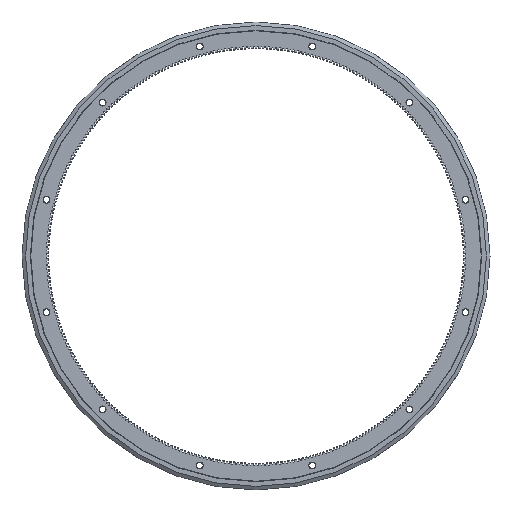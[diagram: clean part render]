
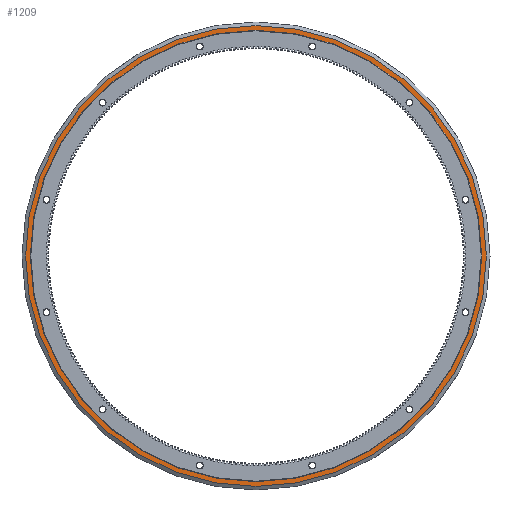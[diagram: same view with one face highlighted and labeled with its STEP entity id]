
A CAD part, front view. The second image highlights one B-rep face of the part: STEP entity #1209.
In plain terms, the highlighted planar face has unit normal (0, -1, 0).
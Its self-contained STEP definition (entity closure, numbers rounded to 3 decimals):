
#1209 = ADVANCED_FACE( '', ( #4254, #4255 ), #4256, .T. );
#4254 = FACE_OUTER_BOUND( '', #8053, .T. );
#4255 = FACE_BOUND( '', #8054, .T. );
#4256 = PLANE( '', #8055 );
#8053 = EDGE_LOOP( '', ( #18088 ) );
#8054 = EDGE_LOOP( '', ( #18089 ) );
#8055 = AXIS2_PLACEMENT_3D( '', #18090, #18091, #18092 );
#18088 = ORIENTED_EDGE( '', *, *, #30431, .T. );
#18089 = ORIENTED_EDGE( '', *, *, #30432, .F. );
#18090 = CARTESIAN_POINT( '', ( 243.15, 9.5, 0. ) );
#18091 = DIRECTION( '', ( 0., -1., 0. ) );
#18092 = DIRECTION( '', ( 0., 0., -1. ) );
#30431 = EDGE_CURVE( '', #39558, #39558, #39559, .T. );
#30432 = EDGE_CURVE( '', #39560, #39560, #39561, .T. );
#39558 = VERTEX_POINT( '', #53741 );
#39559 = CIRCLE( '', #53742, 248.836 );
#39560 = VERTEX_POINT( '', #53743 );
#39561 = CIRCLE( '', #53744, 243.15 );
#53741 = CARTESIAN_POINT( '', ( 0., 9.5, -248.836 ) );
#53742 = AXIS2_PLACEMENT_3D( '', #60089, #60090, #60091 );
#53743 = CARTESIAN_POINT( '', ( 0., 9.5, -243.15 ) );
#53744 = AXIS2_PLACEMENT_3D( '', #60092, #60093, #60094 );
#60089 = CARTESIAN_POINT( '', ( 0., 9.5, 0. ) );
#60090 = DIRECTION( '', ( 0., -1., 0. ) );
#60091 = DIRECTION( '', ( 0., 0., -1. ) );
#60092 = CARTESIAN_POINT( '', ( 0., 9.5, 0. ) );
#60093 = DIRECTION( '', ( 0., -1., 0. ) );
#60094 = DIRECTION( '', ( 0., 0., -1. ) );
